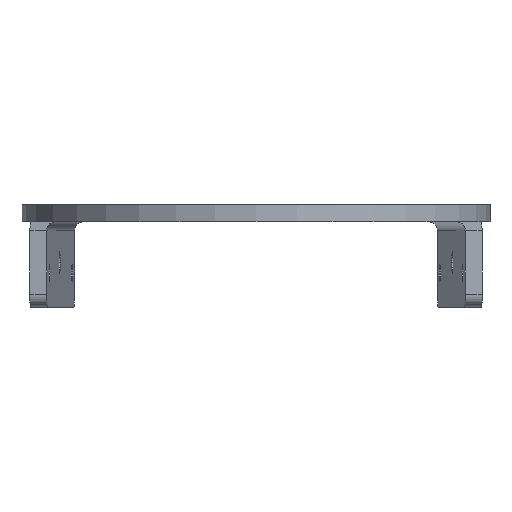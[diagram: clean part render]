
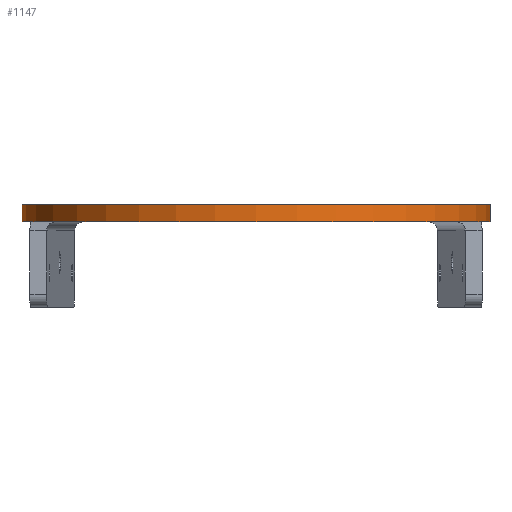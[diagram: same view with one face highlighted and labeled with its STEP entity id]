
A CAD part, front view. The second image highlights one B-rep face of the part: STEP entity #1147.
In plain terms, the highlighted cylindrical face has radius 55 mm (diameter 110 mm), a partial arc.
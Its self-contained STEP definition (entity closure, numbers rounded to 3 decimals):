
#1001 = VERTEX_POINT ( 'NONE', #3039 ) ;
#1104 = EDGE_CURVE ( 'NONE', #1207, #1001, #3184, .T. ) ;
#1127 = VERTEX_POINT ( 'NONE', #3064 ) ;
#1144 = ORIENTED_EDGE ( 'NONE', *, *, #1152, .T. ) ;
#1147 = ADVANCED_FACE ( 'NONE', ( #3126 ), #3125, .T. ) ;
#1148 = EDGE_LOOP ( 'NONE', ( #1150, #1151, #1144, #1331 ) ) ;
#1149 = VERTEX_POINT ( 'NONE', #3067 ) ;
#1150 = ORIENTED_EDGE ( 'NONE', *, *, #1104, .F. ) ;
#1151 = ORIENTED_EDGE ( 'NONE', *, *, #1203, .F. ) ;
#1152 = EDGE_CURVE ( 'NONE', #1149, #1127, #3117, .T. ) ;
#1155 = EDGE_CURVE ( 'NONE', #1127, #1001, #3323, .T. ) ;
#1203 = EDGE_CURVE ( 'NONE', #1149, #1207, #3449, .T. ) ;
#1207 = VERTEX_POINT ( 'NONE', #3496 ) ;
#1331 = ORIENTED_EDGE ( 'NONE', *, *, #1155, .T. ) ;
#3039 = CARTESIAN_POINT ( 'NONE',  ( 55., 0., 0. ) ) ;
#3053 = DIRECTION ( 'NONE',  ( 0., 0., -1. ) ) ;
#3064 = CARTESIAN_POINT ( 'NONE',  ( -55., 0., 0. ) ) ;
#3067 = CARTESIAN_POINT ( 'NONE',  ( -55., 0., 4. ) ) ;
#3116 = VECTOR ( 'NONE', #3053, 1000. ) ;
#3117 = LINE ( 'NONE', #3120, #3116 ) ;
#3120 = CARTESIAN_POINT ( 'NONE',  ( -55., 0., 4. ) ) ;
#3123 = CARTESIAN_POINT ( 'NONE',  ( 0., 0., 4. ) ) ;
#3125 = CYLINDRICAL_SURFACE ( 'NONE', #3130, 55. ) ;
#3126 = FACE_OUTER_BOUND ( 'NONE', #1148, .T. ) ;
#3130 = AXIS2_PLACEMENT_3D ( 'NONE', #3123, #3133, #3132 ) ;
#3132 = DIRECTION ( 'NONE',  ( -1., 0., 0. ) ) ;
#3133 = DIRECTION ( 'NONE',  ( 0., 0., -1. ) ) ;
#3181 = DIRECTION ( 'NONE',  ( 0., 0., -1. ) ) ;
#3182 = VECTOR ( 'NONE', #3181, 1000. ) ;
#3183 = CARTESIAN_POINT ( 'NONE',  ( 55., 0., 4. ) ) ;
#3184 = LINE ( 'NONE', #3183, #3182 ) ;
#3312 = DIRECTION ( 'NONE',  ( 1., 0., 0. ) ) ;
#3313 = DIRECTION ( 'NONE',  ( 0., 0., 1. ) ) ;
#3314 = CARTESIAN_POINT ( 'NONE',  ( 0., 0., 0. ) ) ;
#3315 = AXIS2_PLACEMENT_3D ( 'NONE', #3314, #3313, #3312 ) ;
#3323 = CIRCLE ( 'NONE', #3315, 55. ) ;
#3449 = CIRCLE ( 'NONE', #3507, 55. ) ;
#3496 = CARTESIAN_POINT ( 'NONE',  ( 55., 0., 4. ) ) ;
#3504 = DIRECTION ( 'NONE',  ( 1., 0., 0. ) ) ;
#3505 = DIRECTION ( 'NONE',  ( 0., 0., 1. ) ) ;
#3506 = CARTESIAN_POINT ( 'NONE',  ( 0., 0., 4. ) ) ;
#3507 = AXIS2_PLACEMENT_3D ( 'NONE', #3506, #3505, #3504 ) ;
